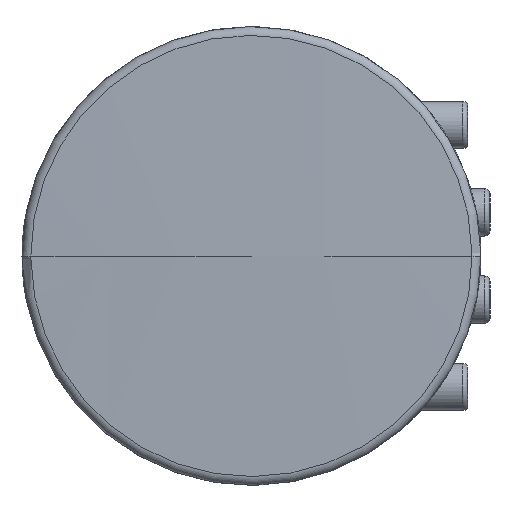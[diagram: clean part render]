
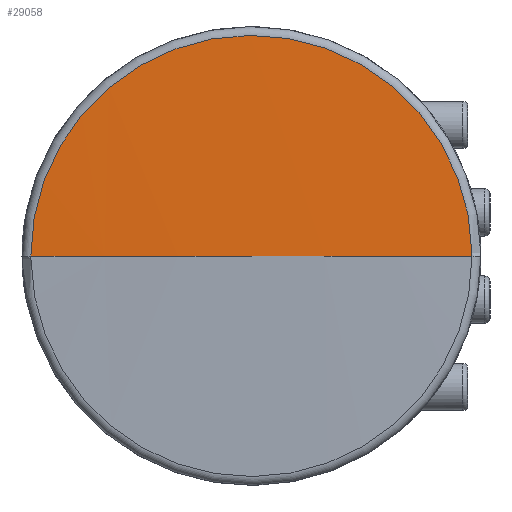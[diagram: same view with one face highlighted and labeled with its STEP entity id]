
A CAD part, left-side view. The second image highlights one B-rep face of the part: STEP entity #29058.
In plain terms, the highlighted spherical face has radius 327.911 mm.
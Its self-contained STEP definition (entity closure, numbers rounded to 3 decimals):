
#829=CARTESIAN_POINT('',(-94.518,0.,0.));
#830=DIRECTION('',(-1.,0.,0.));
#831=DIRECTION('',(0.,-1.,0.));
#832=AXIS2_PLACEMENT_3D('',#829,#830,#831);
#834=CARTESIAN_POINT('',(-94.518,0.,0.));
#835=DIRECTION('',(-1.,0.,0.));
#836=DIRECTION('',(0.,-1.,0.012));
#837=AXIS2_PLACEMENT_3D('',#834,#835,#836);
#864=CARTESIAN_POINT('',(233.173,0.,0.));
#865=DIRECTION('',(0.,0.,1.));
#866=DIRECTION('',(-0.999,0.037,0.));
#867=AXIS2_PLACEMENT_3D('',#864,#865,#866);
#869=CARTESIAN_POINT('',(233.173,0.,0.));
#870=DIRECTION('',(0.,0.,1.));
#871=DIRECTION('',(-1.,0.,0.));
#872=AXIS2_PLACEMENT_3D('',#869,#870,#871);
#25563=CARTESIAN_POINT('',(-94.518,-12.018,0.));
#25564=VERTEX_POINT('',#25563);
#25565=CARTESIAN_POINT('',(-94.518,-12.017,
0.149));
#25566=CARTESIAN_POINT('',(-94.518,12.018,
0.));
#25567=VERTEX_POINT('',#25565);
#25568=VERTEX_POINT('',#25566);
#25571=CARTESIAN_POINT('',(-94.738,0.,0.));
#25572=VERTEX_POINT('',#25571);
#29047=CARTESIAN_POINT('',(233.173,0.,0.));
#29048=DIRECTION('',(1.,0.,0.));
#29049=DIRECTION('',(0.,-1.,0.));
#29050=AXIS2_PLACEMENT_3D('',#29047,#29048,#29049);
#29051=SPHERICAL_SURFACE('',#29050,327.911);
#29052=ORIENTED_EDGE('',*,*,#29010,.F.);
#29053=ORIENTED_EDGE('',*,*,#29008,.F.);
#29054=ORIENTED_EDGE('',*,*,#29042,.F.);
#29055=ORIENTED_EDGE('',*,*,#29040,.F.);
#29056=EDGE_LOOP('',(#29052,#29053,#29054,#29055));
#29057=FACE_OUTER_BOUND('',#29056,.F.);
#29058=ADVANCED_FACE('',(#29057),#29051,.T.);
#833=CIRCLE('',#832,12.018);
#838=CIRCLE('',#837,12.018);
#868=CIRCLE('',#867,327.911);
#873=CIRCLE('',#872,327.911);
#29008=EDGE_CURVE('',#25564,#25567,#833,.T.);
#29010=EDGE_CURVE('',#25567,#25568,#838,.T.);
#29040=EDGE_CURVE('',#25568,#25572,#868,.T.);
#29042=EDGE_CURVE('',#25572,#25564,#873,.T.);
